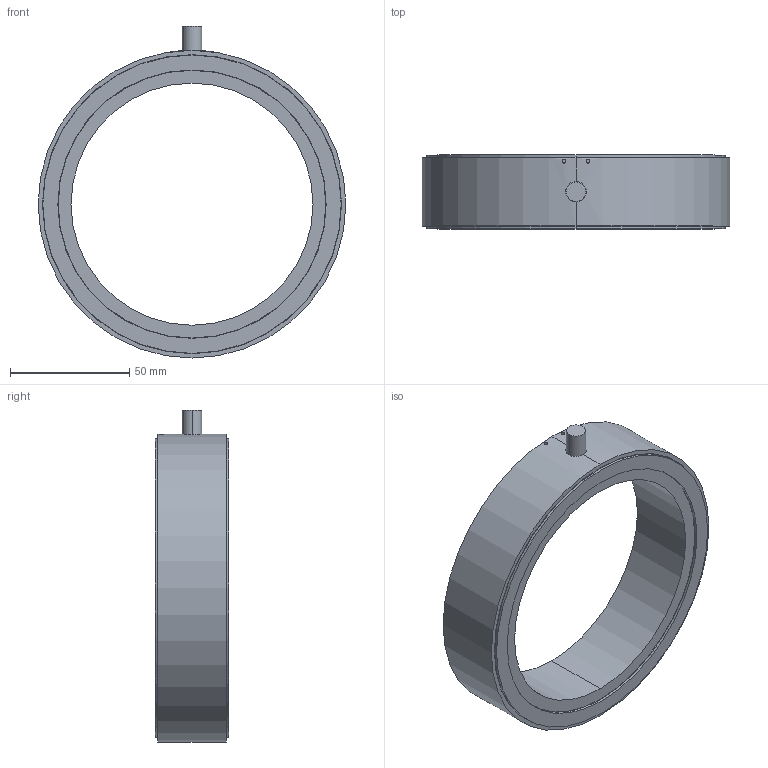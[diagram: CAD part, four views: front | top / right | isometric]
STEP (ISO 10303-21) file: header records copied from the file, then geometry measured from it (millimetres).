
FILE_DESCRIPTION (( 'STEP AP214' ), '1' );
FILE_NAME ('FINAL ASBY SS1809-100KLB.STEP', '2024-08-12T14:57:07', ( '' ), ( '' ), 'SwSTEP 2.0', 'SolidWorks 2008', '' );
FILE_SCHEMA (( 'AUTOMOTIVE_DESIGN' ));
Length unit declared in the file: inch
Products named in the file (1): FINAL ASBY SS1809-100KLB
Bounding box: 129.16 x 30.99 x 139.38 mm (x, y, z)
Volume: 149131.7 mm3; surface area: 32937.8 mm2
Topology: 1 solids, 1 shells, 38 faces, 79 edges, 50 vertices
Faces by surface type: cylinder 20, plane 10, torus 8
Entity records: 1168 total; most frequent: CARTESIAN_POINT 292, DIRECTION 199, ORIENTED_EDGE 158, AXIS2_PLACEMENT_3D 89, EDGE_CURVE 79, CIRCLE 50, VERTEX_POINT 50, EDGE_LOOP 47
